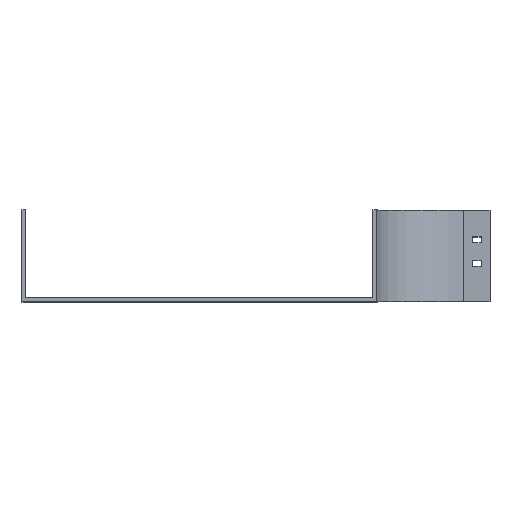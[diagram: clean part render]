
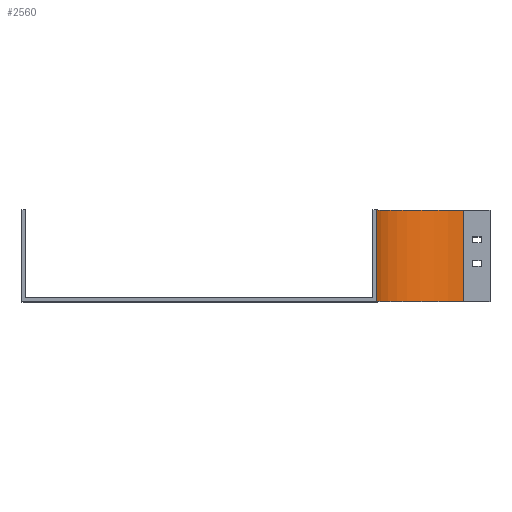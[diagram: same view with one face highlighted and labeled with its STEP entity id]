
A CAD part, top view. The second image highlights one B-rep face of the part: STEP entity #2560.
In plain terms, the highlighted cylindrical face has radius 100 mm (diameter 200 mm), a partial arc.
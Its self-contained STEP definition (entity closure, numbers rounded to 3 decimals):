
#160 = VERTEX_POINT ( 'NONE', #1981 ) ;
#198 = AXIS2_PLACEMENT_3D ( 'NONE', #1749, #425, #243 ) ;
#215 = EDGE_CURVE ( 'NONE', #1264, #754, #2148, .T. ) ;
#240 = EDGE_CURVE ( 'NONE', #1264, #160, #508, .T. ) ;
#243 = DIRECTION ( 'NONE',  ( 0., 0., -1. ) ) ;
#280 = DIRECTION ( 'NONE',  ( 0., 0., -1. ) ) ;
#308 = CARTESIAN_POINT ( 'NONE',  ( 0., 0., 0. ) ) ;
#425 = DIRECTION ( 'NONE',  ( 0., -1., 0. ) ) ;
#455 = DIRECTION ( 'NONE',  ( 0., 0., -1. ) ) ;
#508 = CIRCLE ( 'NONE', #198, 100. ) ;
#520 = CIRCLE ( 'NONE', #699, 100. ) ;
#617 = EDGE_CURVE ( 'NONE', #754, #2318, #520, .T. ) ;
#662 = CARTESIAN_POINT ( 'NONE',  ( -100., 104., 0. ) ) ;
#699 = AXIS2_PLACEMENT_3D ( 'NONE', #308, #1111, #280 ) ;
#747 = CARTESIAN_POINT ( 'NONE',  ( -100., 104., 0. ) ) ;
#754 = VERTEX_POINT ( 'NONE', #1228 ) ;
#782 = ORIENTED_EDGE ( 'NONE', *, *, #617, .T. ) ;
#881 = ORIENTED_EDGE ( 'NONE', *, *, #240, .F. ) ;
#985 = EDGE_CURVE ( 'NONE', #160, #2318, #1147, .T. ) ;
#1111 = DIRECTION ( 'NONE',  ( 0., -1., 0. ) ) ;
#1147 = LINE ( 'NONE', #2611, #1458 ) ;
#1214 = ORIENTED_EDGE ( 'NONE', *, *, #985, .F. ) ;
#1228 = CARTESIAN_POINT ( 'NONE',  ( -100., 0., 0. ) ) ;
#1264 = VERTEX_POINT ( 'NONE', #747 ) ;
#1458 = VECTOR ( 'NONE', #1571, 1000. ) ;
#1484 = DIRECTION ( 'NONE',  ( 0., -1., 0. ) ) ;
#1513 = DIRECTION ( 'NONE',  ( 0., -1., 0. ) ) ;
#1571 = DIRECTION ( 'NONE',  ( 0., -1., 0. ) ) ;
#1694 = FACE_OUTER_BOUND ( 'NONE', #2522, .T. ) ;
#1720 = CARTESIAN_POINT ( 'NONE',  ( 0., 104., 0. ) ) ;
#1749 = CARTESIAN_POINT ( 'NONE',  ( 0., 104., 0. ) ) ;
#1792 = CARTESIAN_POINT ( 'NONE',  ( 0., 0., -100. ) ) ;
#1981 = CARTESIAN_POINT ( 'NONE',  ( 0., 104., -100. ) ) ;
#2148 = LINE ( 'NONE', #662, #2474 ) ;
#2318 = VERTEX_POINT ( 'NONE', #1792 ) ;
#2474 = VECTOR ( 'NONE', #1513, 1000. ) ;
#2522 = EDGE_LOOP ( 'NONE', ( #782, #1214, #881, #2733 ) ) ;
#2560 = ADVANCED_FACE ( 'NONE', ( #1694 ), #2763, .F. ) ;
#2611 = CARTESIAN_POINT ( 'NONE',  ( 0., 104., -100. ) ) ;
#2639 = AXIS2_PLACEMENT_3D ( 'NONE', #1720, #1484, #455 ) ;
#2733 = ORIENTED_EDGE ( 'NONE', *, *, #215, .T. ) ;
#2763 = CYLINDRICAL_SURFACE ( 'NONE', #2639, 100. ) ;
